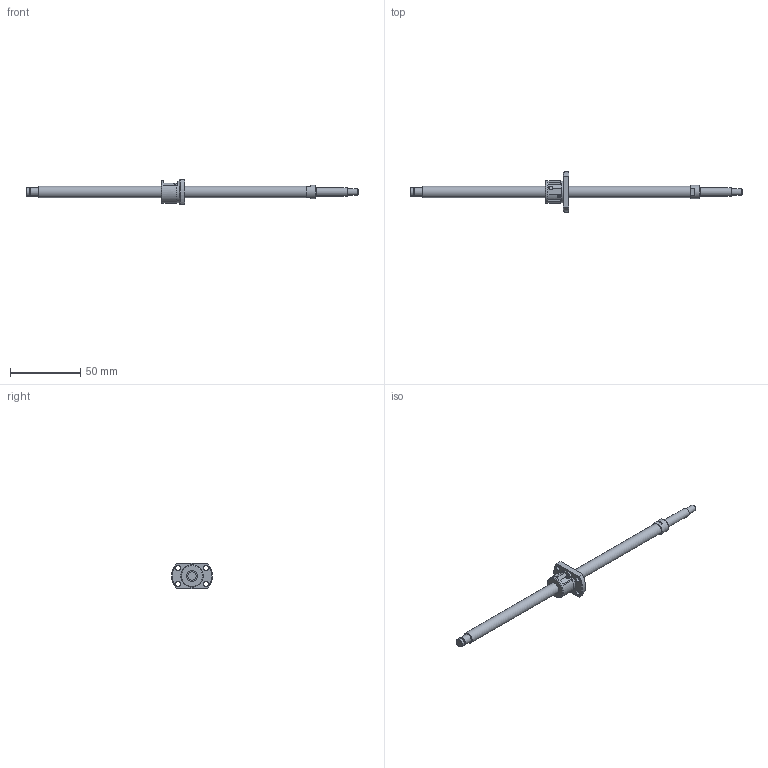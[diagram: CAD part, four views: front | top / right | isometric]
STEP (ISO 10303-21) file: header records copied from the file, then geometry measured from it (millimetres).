
FILE_DESCRIPTION(/* description */ ('STEP AP214'),/* implementation_level */ '2;1');
FILE_NAME(/* name */ 'SRT0801-187R237C7B0X(87.5Processing)',/* time_stamp */ '2026-08-04T19:54:27+02:00',/* author */ ('License CC BY-ND 4.0'),/* organization */ ('CADENAS'),/* preprocessor_version */ 'ST-DEVELOPER v20',/* originating_system */ 'PARTsolutions',/* authorisation */ ' ');
FILE_SCHEMA (('AUTOMOTIVE_DESIGN {1 0 10303 214 3 1 1}'));
Length unit declared in the file: millimetre
Products named in the file (3): SRT0801-187R237C7B0X(87.5Processing); SRT0801-187R270BCt7Processing29Shaft; SRT0801Nut
Assembly tree (2 placements, depth 2):
  SRT0801-187R237C7B0X(87.5Processing)
    SRT0801-187R270BCt7Processing29Shaft
    SRT0801Nut
Bounding box: 237 x 29 x 18 mm (x, y, z)
Volume: 14419.3 mm3; surface area: 8235 mm2
Topology: 2 solids, 2 shells, 69 faces, 163 edges, 104 vertices
Faces by surface type: plane 34, cylinder 20, cone 14, torus 1
Full cylindrical faces by diameter (mm): 2 x2, 3.4 x4, 4.5 x1, 5.7 x1, 6 x3, 8 x2, 9.5 x1, 15.5 x1, 16 x1
Entity records: 1905 total; most frequent: CARTESIAN_POINT 362, DIRECTION 322, ORIENTED_EDGE 258, AXIS2_PLACEMENT_3D 139, EDGE_CURVE 129, EDGE_LOOP 108, FACE_BOUND 108, VERTEX_POINT 93
